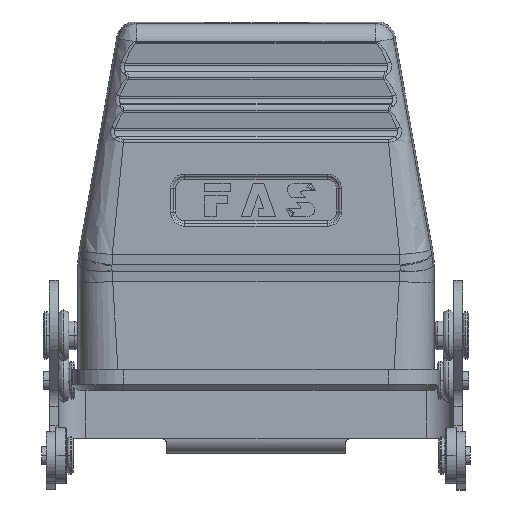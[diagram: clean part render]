
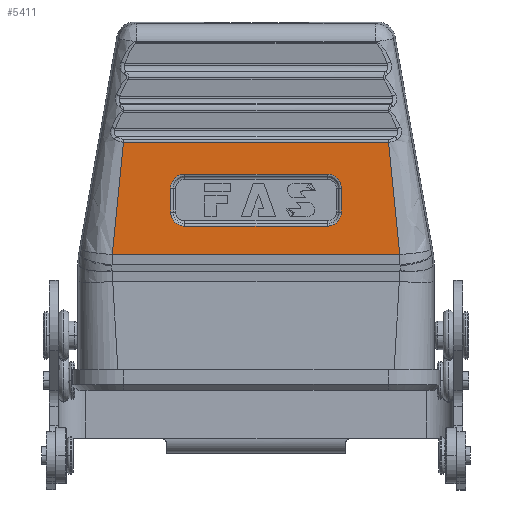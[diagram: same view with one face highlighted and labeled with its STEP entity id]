
A CAD part, top view. The second image highlights one B-rep face of the part: STEP entity #5411.
In plain terms, the highlighted planar face has unit normal (0, 0, 1) as drawn and (0, -1, 0) by its records, which use the part's own axes.
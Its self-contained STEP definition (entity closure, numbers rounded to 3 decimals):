
#245 = CARTESIAN_POINT ( 'NONE',  ( 22.292, -22., 39.758 ) ) ;
#497 = CARTESIAN_POINT ( 'NONE',  ( -270.598, -22., 20.875 ) ) ;
#1255 = VECTOR ( 'NONE', #21133, 1000. ) ;
#1316 = LINE ( 'NONE', #19577, #18412 ) ;
#1877 = CARTESIAN_POINT ( 'NONE',  ( -12., -22., 25.634 ) ) ;
#2117 = CARTESIAN_POINT ( 'NONE',  ( -13.386, -22., 25.634 ) ) ;
#2238 = CARTESIAN_POINT ( 'NONE',  ( 23.748, -22., 27.182 ) ) ;
#2482 = VERTEX_POINT ( 'NONE', #18002 ) ;
#2794 = EDGE_CURVE ( 'NONE', #9194, #2482, #20910, .T. ) ;
#2795 = B_SPLINE_CURVE_WITH_KNOTS ( 'NONE', 3,
 ( #9596, #26192, #14368, #2238, #30572, #4825 ),
 .UNSPECIFIED., .F., .F.,
 ( 4, 2, 4 ),
 ( 0., 0.5, 1. ),
 .UNSPECIFIED. ) ;
#3451 = ORIENTED_EDGE ( 'NONE', *, *, #5403, .F. ) ;
#3762 =( BOUNDED_CURVE ( )  B_SPLINE_CURVE ( 3, ( #22895, #16344, #2117, #6807 ),
 .UNSPECIFIED., .F., .F. ) 
 B_SPLINE_CURVE_WITH_KNOTS ( ( 4, 4 ),
 ( 0., 1. ),
 .UNSPECIFIED. ) 
 CURVE ( )  GEOMETRIC_REPRESENTATION_ITEM ( )  RATIONAL_B_SPLINE_CURVE ( ( 1., 0.805, 0.805, 1. ) ) 
 REPRESENTATION_ITEM ( '' )  );
#3971 =( BOUNDED_CURVE ( )  B_SPLINE_CURVE ( 3, ( #11176, #6062, #17910, #11065 ),
 .UNSPECIFIED., .F., .F. ) 
 B_SPLINE_CURVE_WITH_KNOTS ( ( 4, 4 ),
 ( 0., 1. ),
 .UNSPECIFIED. ) 
 CURVE ( )  GEOMETRIC_REPRESENTATION_ITEM ( )  RATIONAL_B_SPLINE_CURVE ( ( 1., 0.805, 0.805, 1. ) ) 
 REPRESENTATION_ITEM ( '' )  );
#4297 = DIRECTION ( 'NONE',  ( 1., 0., 0. ) ) ;
#4299 = EDGE_CURVE ( 'NONE', #18974, #23970, #2795, .T. ) ;
#4825 = CARTESIAN_POINT ( 'NONE',  ( 24.172, -22., 20.875 ) ) ;
#5221 = EDGE_CURVE ( 'NONE', #20911, #9194, #14660, .T. ) ;
#5373 = VERTEX_POINT ( 'NONE', #29025 ) ;
#5403 = EDGE_CURVE ( 'NONE', #2482, #26892, #1316, .T. ) ;
#5411 = ADVANCED_FACE ( 'NONE', ( #25813, #23223 ), #9726, .F. ) ;
#5540 = CARTESIAN_POINT ( 'NONE',  ( 13.386, -22., 34.366 ) ) ;
#5655 = CARTESIAN_POINT ( 'NONE',  ( -23.748, -22., 27.183 ) ) ;
#5869 = CARTESIAN_POINT ( 'NONE',  ( -24.172, -22., 20.875 ) ) ;
#6062 = CARTESIAN_POINT ( 'NONE',  ( -13.386, -22., 34.366 ) ) ;
#6166 = VECTOR ( 'NONE', #23429, 1000. ) ;
#6302 = VERTEX_POINT ( 'NONE', #26605 ) ;
#6487 = EDGE_CURVE ( 'NONE', #26892, #5373, #3971, .T. ) ;
#6807 = CARTESIAN_POINT ( 'NONE',  ( -12., -22., 25.634 ) ) ;
#7058 = ORIENTED_EDGE ( 'NONE', *, *, #4299, .F. ) ;
#7209 = EDGE_CURVE ( 'NONE', #5373, #15147, #7544, .T. ) ;
#7256 = CARTESIAN_POINT ( 'NONE',  ( 14.366, -22., 26.614 ) ) ;
#7411 = VECTOR ( 'NONE', #4297, 1000. ) ;
#7544 = LINE ( 'NONE', #23434, #1255 ) ;
#8389 = EDGE_CURVE ( 'NONE', #23970, #22276, #9174, .T. ) ;
#8590 = CARTESIAN_POINT ( 'NONE',  ( -30., -22., 39.758 ) ) ;
#8832 = CARTESIAN_POINT ( 'NONE',  ( 12., -22., 25.634 ) ) ;
#8871 = EDGE_LOOP ( 'NONE', ( #19921, #8877, #15412, #3451, #26355, #29680, #30457, #16591 ) ) ;
#8877 = ORIENTED_EDGE ( 'NONE', *, *, #7209, .F. ) ;
#8887 = CARTESIAN_POINT ( 'NONE',  ( -22.707, -22., 36.619 ) ) ;
#8992 = CARTESIAN_POINT ( 'NONE',  ( -22.292, -22., 39.758 ) ) ;
#9174 = LINE ( 'NONE', #497, #16222 ) ;
#9194 = VERTEX_POINT ( 'NONE', #23680 ) ;
#9596 = CARTESIAN_POINT ( 'NONE',  ( 22.292, -22., 39.758 ) ) ;
#9726 = PLANE ( 'NONE',  #19225 ) ;
#9834 = VECTOR ( 'NONE', #13383, 1000. ) ;
#9932 = EDGE_CURVE ( 'NONE', #22276, #6302, #26833, .T. ) ;
#10035 = DIRECTION ( 'NONE',  ( -1., 0., 0. ) ) ;
#10226 = DIRECTION ( 'NONE',  ( 0., 1., 0. ) ) ;
#10343 = CARTESIAN_POINT ( 'NONE',  ( -30., -22., 0. ) ) ;
#10446 = CARTESIAN_POINT ( 'NONE',  ( 14.366, -22., 32. ) ) ;
#11065 = CARTESIAN_POINT ( 'NONE',  ( -14.366, -22., 32. ) ) ;
#11176 = CARTESIAN_POINT ( 'NONE',  ( -12., -22., 34.366 ) ) ;
#11414 = CARTESIAN_POINT ( 'NONE',  ( 24.172, -22., 20.875 ) ) ;
#12201 = ORIENTED_EDGE ( 'NONE', *, *, #30654, .F. ) ;
#12406 = DIRECTION ( 'NONE',  ( 0., 0., 1. ) ) ;
#13300 = CARTESIAN_POINT ( 'NONE',  ( -12., -22., 34.366 ) ) ;
#13358 = CARTESIAN_POINT ( 'NONE',  ( -23.096, -22., 33.477 ) ) ;
#13383 = DIRECTION ( 'NONE',  ( 0., 0., 1. ) ) ;
#13660 = CARTESIAN_POINT ( 'NONE',  ( -30., -22., 25.634 ) ) ;
#14281 = CARTESIAN_POINT ( 'NONE',  ( -14.366, -22., 28. ) ) ;
#14368 = CARTESIAN_POINT ( 'NONE',  ( 23.097, -22., 33.477 ) ) ;
#14660 = LINE ( 'NONE', #16164, #9834 ) ;
#14803 = DIRECTION ( 'NONE',  ( -1., 0., 0. ) ) ;
#14899 = EDGE_CURVE ( 'NONE', #17048, #20911, #23539, .T. ) ;
#15106 = CARTESIAN_POINT ( 'NONE',  ( -24.009, -22., 24.029 ) ) ;
#15147 = VERTEX_POINT ( 'NONE', #14281 ) ;
#15221 = ORIENTED_EDGE ( 'NONE', *, *, #9932, .F. ) ;
#15412 = ORIENTED_EDGE ( 'NONE', *, *, #6487, .F. ) ;
#16164 = CARTESIAN_POINT ( 'NONE',  ( 14.366, -22., 0. ) ) ;
#16222 = VECTOR ( 'NONE', #14803, 1000. ) ;
#16344 = CARTESIAN_POINT ( 'NONE',  ( -14.366, -22., 26.614 ) ) ;
#16591 = ORIENTED_EDGE ( 'NONE', *, *, #27768, .F. ) ;
#17048 = VERTEX_POINT ( 'NONE', #8832 ) ;
#17595 = CARTESIAN_POINT ( 'NONE',  ( 14.366, -22., 33.386 ) ) ;
#17910 = CARTESIAN_POINT ( 'NONE',  ( -14.366, -22., 33.386 ) ) ;
#18002 = CARTESIAN_POINT ( 'NONE',  ( 12., -22., 34.366 ) ) ;
#18412 = VECTOR ( 'NONE', #10035, 1000. ) ;
#18557 = ORIENTED_EDGE ( 'NONE', *, *, #8389, .F. ) ;
#18837 = EDGE_CURVE ( 'NONE', #15147, #26471, #3762, .T. ) ;
#18974 = VERTEX_POINT ( 'NONE', #245 ) ;
#19225 = AXIS2_PLACEMENT_3D ( 'NONE', #10343, #10226, #12406 ) ;
#19577 = CARTESIAN_POINT ( 'NONE',  ( -30., -22., 34.366 ) ) ;
#19921 = ORIENTED_EDGE ( 'NONE', *, *, #18837, .F. ) ;
#19985 = CARTESIAN_POINT ( 'NONE',  ( 12., -22., 34.366 ) ) ;
#20910 =( BOUNDED_CURVE ( )  B_SPLINE_CURVE ( 3, ( #10446, #17595, #5540, #19985 ),
 .UNSPECIFIED., .F., .T. ) 
 B_SPLINE_CURVE_WITH_KNOTS ( ( 4, 4 ),
 ( 0., 1. ),
 .UNSPECIFIED. ) 
 CURVE ( )  GEOMETRIC_REPRESENTATION_ITEM ( )  RATIONAL_B_SPLINE_CURVE ( ( 1., 0.805, 0.805, 1. ) ) 
 REPRESENTATION_ITEM ( '' )  );
#20911 = VERTEX_POINT ( 'NONE', #27138 ) ;
#21027 = CARTESIAN_POINT ( 'NONE',  ( -24.172, -22., 20.875 ) ) ;
#21133 = DIRECTION ( 'NONE',  ( 0., 0., -1. ) ) ;
#21272 = CARTESIAN_POINT ( 'NONE',  ( 13.386, -22., 25.634 ) ) ;
#21472 = CARTESIAN_POINT ( 'NONE',  ( 12., -22., 25.634 ) ) ;
#22276 = VERTEX_POINT ( 'NONE', #21027 ) ;
#22895 = CARTESIAN_POINT ( 'NONE',  ( -14.366, -22., 28. ) ) ;
#23223 = FACE_OUTER_BOUND ( 'NONE', #26736, .T. ) ;
#23429 = DIRECTION ( 'NONE',  ( 1., 0., 0. ) ) ;
#23434 = CARTESIAN_POINT ( 'NONE',  ( -14.366, -22., 0. ) ) ;
#23539 =( BOUNDED_CURVE ( )  B_SPLINE_CURVE ( 3, ( #21472, #21272, #7256, #23872 ),
 .UNSPECIFIED., .F., .F. ) 
 B_SPLINE_CURVE_WITH_KNOTS ( ( 4, 4 ),
 ( 0., 1. ),
 .UNSPECIFIED. ) 
 CURVE ( )  GEOMETRIC_REPRESENTATION_ITEM ( )  RATIONAL_B_SPLINE_CURVE ( ( 1., 0.805, 0.805, 1. ) ) 
 REPRESENTATION_ITEM ( '' )  );
#23680 = CARTESIAN_POINT ( 'NONE',  ( 14.366, -22., 32. ) ) ;
#23872 = CARTESIAN_POINT ( 'NONE',  ( 14.366, -22., 28. ) ) ;
#23970 = VERTEX_POINT ( 'NONE', #11414 ) ;
#24122 = LINE ( 'NONE', #13660, #7411 ) ;
#25493 = LINE ( 'NONE', #8590, #6166 ) ;
#25813 = FACE_BOUND ( 'NONE', #8871, .T. ) ;
#26192 = CARTESIAN_POINT ( 'NONE',  ( 22.708, -22., 36.619 ) ) ;
#26355 = ORIENTED_EDGE ( 'NONE', *, *, #2794, .F. ) ;
#26471 = VERTEX_POINT ( 'NONE', #1877 ) ;
#26605 = CARTESIAN_POINT ( 'NONE',  ( -22.292, -22., 39.758 ) ) ;
#26736 = EDGE_LOOP ( 'NONE', ( #18557, #7058, #12201, #15221 ) ) ;
#26833 = B_SPLINE_CURVE_WITH_KNOTS ( 'NONE', 3,
 ( #5869, #15106, #5655, #13358, #8887, #8992 ),
 .UNSPECIFIED., .F., .F.,
 ( 4, 2, 4 ),
 ( 0., 0.5, 1. ),
 .UNSPECIFIED. ) ;
#26892 = VERTEX_POINT ( 'NONE', #13300 ) ;
#27138 = CARTESIAN_POINT ( 'NONE',  ( 14.366, -22., 28. ) ) ;
#27768 = EDGE_CURVE ( 'NONE', #26471, #17048, #24122, .T. ) ;
#29025 = CARTESIAN_POINT ( 'NONE',  ( -14.366, -22., 32. ) ) ;
#29680 = ORIENTED_EDGE ( 'NONE', *, *, #5221, .F. ) ;
#30457 = ORIENTED_EDGE ( 'NONE', *, *, #14899, .F. ) ;
#30572 = CARTESIAN_POINT ( 'NONE',  ( 24.01, -22., 24.029 ) ) ;
#30654 = EDGE_CURVE ( 'NONE', #6302, #18974, #25493, .T. ) ;
